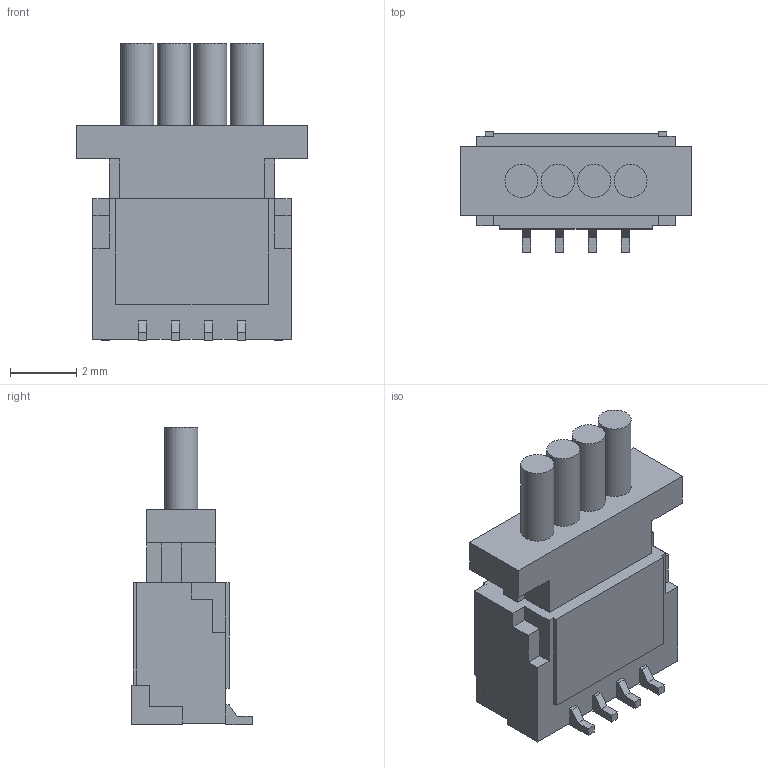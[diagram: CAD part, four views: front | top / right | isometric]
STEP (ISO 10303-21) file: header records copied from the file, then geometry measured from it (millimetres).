
FILE_DESCRIPTION(/* description */ ('STEP AP242','CAx-IF Rec.Pracs.---Representation and Presentation of Product Manufacturing Information (PMI)---4.0---2014-10-13','CAx-IF Rec.Pracs.---3D Tessellated Geometry---0.4---2014-09-14','2;1'),/* implementation_level */ '2;1');
FILE_NAME(/* name */ '630e7d3f294cad6dc104ae05',/* time_stamp */ '2022-08-30T21:12:32+00:00',/* author */ (''),/* organization */ (''),/* preprocessor_version */ 'ST-DEVELOPER v18.102',/* originating_system */ ' ',/* authorisation */ ' ');
FILE_SCHEMA (('AP242_MANAGED_MODEL_BASED_3D_ENGINEERING_MIM_LF { 1 0 10303 442 1 1 4 }'));
Length unit declared in the file: metre
Products named in the file (1): JSTSH4_with_wire
Bounding box: 7 x 3.65 x 9 mm (x, y, z)
Volume: 104.3 mm3; surface area: 191.6 mm2
Topology: 1 solids, 1 shells, 119 faces, 306 edges, 194 vertices
Faces by surface type: plane 115, cylinder 4
Full cylindrical faces by diameter (mm): 1 x4
Entity records: 3998 total; most frequent: CARTESIAN_POINT 616, ORIENTED_EDGE 604, DIRECTION 550, EDGE_CURVE 302, LINE 294, VECTOR 294, VERTEX_POINT 194, EDGE_LOOP 128
